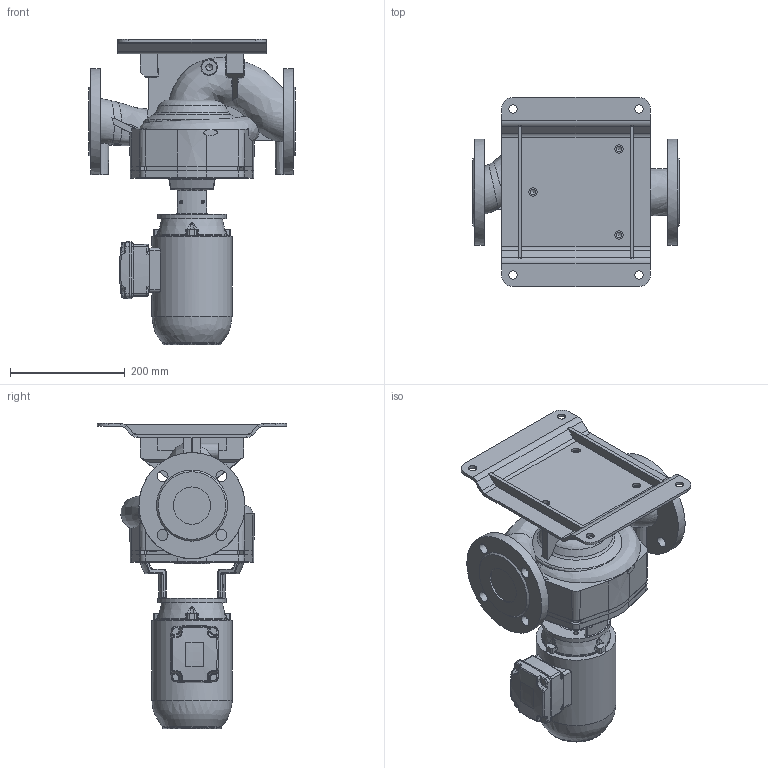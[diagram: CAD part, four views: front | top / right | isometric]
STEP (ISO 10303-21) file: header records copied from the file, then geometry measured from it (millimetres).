
FILE_DESCRIPTION (( 'STEP AP203' ), '1' );
FILE_NAME ('KI65-145_4_0,37kW.STEP', '2024-07-29T10:20:58', ( '' ), ( '' ), 'SwSTEP 2.0', 'SolidWorks 2023', '' );
FILE_SCHEMA (( 'CONFIG_CONTROL_DESIGN' ));
Length unit declared in the file: millimetre
Products named in the file (11): 230404; WEG_W21_IEC71_B14_solid; 230405; 220542; 230497; 230033; 220545; 230034; 230496; 230031; KI65-145_4_0,37kW
Assembly tree (11 placements, depth 3):
  KI65-145_4_0,37kW
    WEG_W21_IEC71_B14_solid
    230405
      230404
    230497
      230496
    220545
      220542
    230034
      230031
      230033  x2
Bounding box: 360 x 330.18 x 532.9 mm (x, y, z)
Volume: 8253745.5 mm3; surface area: 922582.8 mm2
Topology: 6 solids, 7 shells, 874 faces, 2258 edges, 1390 vertices
Faces by surface type: plane 264, cylinder 236, bspline 186, cone 107, torus 67, sphere 14
Full cylindrical faces by diameter (mm): 5 x8, 6 x7, 7 x8, 8 x4, 10.2 x7, 11.8 x4, 14 x4, 14.5 x7, 19 x8, 65 x2, 70 x1, 120 x2, 139.995 x1, 147 x1, 151 x1, 189 x1
Entity records: 46023 total; most frequent: CARTESIAN_POINT 25753, ORIENTED_EDGE 4136, DIRECTION 3694, EDGE_CURVE 2068, AXIS2_PLACEMENT_3D 1481, VERTEX_POINT 1332, EDGE_LOOP 1060, FACE_OUTER_BOUND 933
